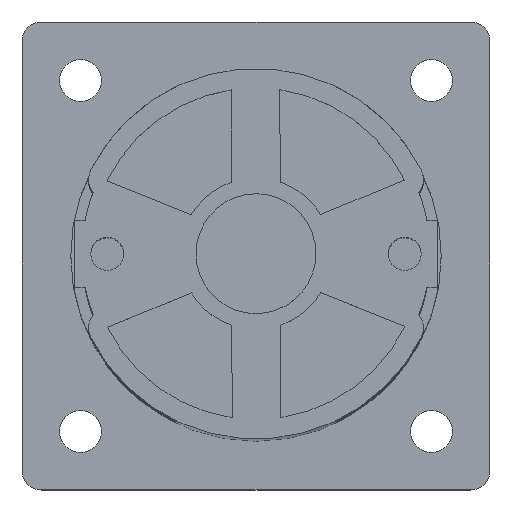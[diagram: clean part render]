
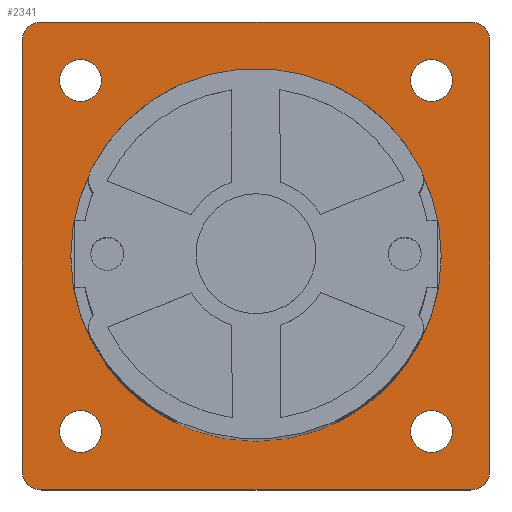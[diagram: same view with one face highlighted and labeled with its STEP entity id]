
A CAD part, top view. The second image highlights one B-rep face of the part: STEP entity #2341.
In plain terms, the highlighted planar face has unit normal (0, 0, 1).
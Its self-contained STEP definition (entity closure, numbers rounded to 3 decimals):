
#561=FACE_BOUND('',#6517,.T.);
#562=FACE_BOUND('',#6518,.T.);
#563=FACE_BOUND('',#6519,.T.);
#564=FACE_BOUND('',#6520,.T.);
#565=FACE_BOUND('',#6521,.T.);
#566=FACE_BOUND('',#6522,.T.);
#1512=CIRCLE('',#28380,2.15);
#1516=CIRCLE('',#28387,2.15);
#1520=CIRCLE('',#28394,2.15);
#1524=CIRCLE('',#28401,2.15);
#1573=CIRCLE('',#28499,19.);
#1618=CIRCLE('',#28594,2.);
#1619=CIRCLE('',#28596,2.);
#1620=CIRCLE('',#28598,2.);
#1621=CIRCLE('',#28600,2.);
#2341=ADVANCED_FACE('',(#561,#562,#563,#564,#565,#566),#3836,.F.);
#3836=PLANE('',#28607);
#6517=EDGE_LOOP('',(#8968,#8969,#8970,#8971,#8972,#8973,#8974,#8975));
#6518=EDGE_LOOP('',(#8976));
#6519=EDGE_LOOP('',(#8977));
#6520=EDGE_LOOP('',(#8978));
#6521=EDGE_LOOP('',(#8979));
#6522=EDGE_LOOP('',(#8980));
#8968=ORIENTED_EDGE('',*,*,#19551,.F.);
#8969=ORIENTED_EDGE('',*,*,#19538,.F.);
#8970=ORIENTED_EDGE('',*,*,#19548,.F.);
#8971=ORIENTED_EDGE('',*,*,#19541,.F.);
#8972=ORIENTED_EDGE('',*,*,#19549,.F.);
#8973=ORIENTED_EDGE('',*,*,#19544,.F.);
#8974=ORIENTED_EDGE('',*,*,#19550,.F.);
#8975=ORIENTED_EDGE('',*,*,#19547,.F.);
#8976=ORIENTED_EDGE('',*,*,#19407,.F.);
#8977=ORIENTED_EDGE('',*,*,#19210,.T.);
#8978=ORIENTED_EDGE('',*,*,#19206,.T.);
#8979=ORIENTED_EDGE('',*,*,#19202,.T.);
#8980=ORIENTED_EDGE('',*,*,#19198,.T.);
#16399=VERTEX_POINT('',#38673);
#16403=VERTEX_POINT('',#38684);
#16407=VERTEX_POINT('',#38695);
#16411=VERTEX_POINT('',#38706);
#16604=VERTEX_POINT('',#39097);
#16693=VERTEX_POINT('',#39365);
#16694=VERTEX_POINT('',#39367);
#16695=VERTEX_POINT('',#39371);
#16696=VERTEX_POINT('',#39373);
#16697=VERTEX_POINT('',#39377);
#16698=VERTEX_POINT('',#39379);
#16699=VERTEX_POINT('',#39383);
#16700=VERTEX_POINT('',#39385);
#19198=EDGE_CURVE('',#16399,#16399,#1512,.T.);
#19202=EDGE_CURVE('',#16403,#16403,#1516,.T.);
#19206=EDGE_CURVE('',#16407,#16407,#1520,.T.);
#19210=EDGE_CURVE('',#16411,#16411,#1524,.T.);
#19407=EDGE_CURVE('',#16604,#16604,#1573,.T.);
#19538=EDGE_CURVE('',#16694,#16693,#1618,.T.);
#19541=EDGE_CURVE('',#16696,#16695,#1619,.T.);
#19544=EDGE_CURVE('',#16698,#16697,#1620,.T.);
#19547=EDGE_CURVE('',#16700,#16699,#1621,.T.);
#19548=EDGE_CURVE('',#16695,#16694,#23367,.T.);
#19549=EDGE_CURVE('',#16697,#16696,#23368,.T.);
#19550=EDGE_CURVE('',#16699,#16698,#23369,.T.);
#19551=EDGE_CURVE('',#16693,#16700,#23370,.T.);
#23367=LINE('',#39388,#25976);
#23368=LINE('',#39390,#25977);
#23369=LINE('',#39392,#25978);
#23370=LINE('',#39394,#25979);
#25976=VECTOR('',#31751,1.);
#25977=VECTOR('',#31754,1.);
#25978=VECTOR('',#31757,1.);
#25979=VECTOR('',#31760,1.);
#28380=AXIS2_PLACEMENT_3D('',#38672,#31115,#31116);
#28387=AXIS2_PLACEMENT_3D('',#38683,#31129,#31130);
#28394=AXIS2_PLACEMENT_3D('',#38694,#31143,#31144);
#28401=AXIS2_PLACEMENT_3D('',#38705,#31157,#31158);
#28499=AXIS2_PLACEMENT_3D('',#39096,#31453,#31454);
#28594=AXIS2_PLACEMENT_3D('',#39368,#31729,#31730);
#28596=AXIS2_PLACEMENT_3D('',#39374,#31735,#31736);
#28598=AXIS2_PLACEMENT_3D('',#39380,#31741,#31742);
#28600=AXIS2_PLACEMENT_3D('',#39386,#31747,#31748);
#28607=AXIS2_PLACEMENT_3D('',#39397,#31765,#31766);
#31115=DIRECTION('',(0.,0.,-1.));
#31116=DIRECTION('',(-1.,0.,0.));
#31129=DIRECTION('',(0.,0.,-1.));
#31130=DIRECTION('',(-1.,0.,0.));
#31143=DIRECTION('',(0.,0.,-1.));
#31144=DIRECTION('',(-1.,0.,0.));
#31157=DIRECTION('',(0.,0.,-1.));
#31158=DIRECTION('',(-1.,0.,0.));
#31453=DIRECTION('',(0.,0.,1.));
#31454=DIRECTION('',(-1.,0.,0.));
#31729=DIRECTION('',(0.,0.,-1.));
#31730=DIRECTION('',(1.,0.,0.));
#31735=DIRECTION('',(0.,0.,-1.));
#31736=DIRECTION('',(1.,0.,0.));
#31741=DIRECTION('',(0.,0.,-1.));
#31742=DIRECTION('',(1.,0.,0.));
#31747=DIRECTION('',(0.,0.,-1.));
#31748=DIRECTION('',(1.,0.,0.));
#31751=DIRECTION('',(0.,-1.,0.));
#31754=DIRECTION('',(1.,0.,0.));
#31757=DIRECTION('',(0.,1.,0.));
#31760=DIRECTION('',(-1.,0.,0.));
#31765=DIRECTION('',(0.,0.,-1.));
#31766=DIRECTION('',(-1.,0.,0.));
#38672=CARTESIAN_POINT('',(18.,-18.,2.5));
#38673=CARTESIAN_POINT('',(15.85,-18.,2.5));
#38683=CARTESIAN_POINT('',(18.,18.,2.5));
#38684=CARTESIAN_POINT('',(15.85,18.,2.5));
#38694=CARTESIAN_POINT('',(-18.,18.,2.5));
#38695=CARTESIAN_POINT('',(-20.15,18.,2.5));
#38705=CARTESIAN_POINT('',(-18.,-18.,2.5));
#38706=CARTESIAN_POINT('',(-20.15,-18.,2.5));
#39096=CARTESIAN_POINT('',(0.,0.,2.5));
#39097=CARTESIAN_POINT('',(-19.,0.,2.5));
#39365=CARTESIAN_POINT('',(22.,-24.,2.5));
#39367=CARTESIAN_POINT('',(24.,-22.,2.5));
#39368=CARTESIAN_POINT('',(22.,-22.,2.5));
#39371=CARTESIAN_POINT('',(24.,22.,2.5));
#39373=CARTESIAN_POINT('',(22.,24.,2.5));
#39374=CARTESIAN_POINT('',(22.,22.,2.5));
#39377=CARTESIAN_POINT('',(-22.,24.,2.5));
#39379=CARTESIAN_POINT('',(-24.,22.,2.5));
#39380=CARTESIAN_POINT('',(-22.,22.,2.5));
#39383=CARTESIAN_POINT('',(-24.,-22.,2.5));
#39385=CARTESIAN_POINT('',(-22.,-24.,2.5));
#39386=CARTESIAN_POINT('',(-22.,-22.,2.5));
#39388=CARTESIAN_POINT('',(24.,22.,2.5));
#39390=CARTESIAN_POINT('',(-22.,24.,2.5));
#39392=CARTESIAN_POINT('',(-24.,-22.,2.5));
#39394=CARTESIAN_POINT('',(22.,-24.,2.5));
#39397=CARTESIAN_POINT('',(-22.,-22.,2.5));
